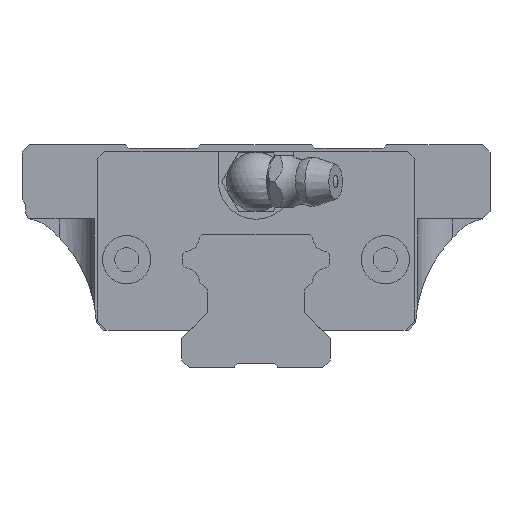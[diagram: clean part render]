
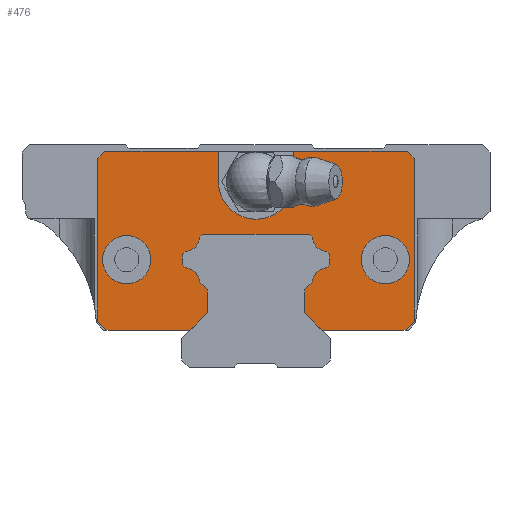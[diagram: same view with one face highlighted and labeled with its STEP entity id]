
A CAD part, front view. The second image highlights one B-rep face of the part: STEP entity #476.
In plain terms, the highlighted planar face has unit normal (0, -1, 0).
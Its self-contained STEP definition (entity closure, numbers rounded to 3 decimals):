
#198=FACE_BOUND('',#1001,.T.);
#199=FACE_BOUND('',#1002,.T.);
#301=CIRCLE('',#3698,2.2);
#303=CIRCLE('',#3704,2.2);
#305=CIRCLE('',#3710,2.2);
#307=CIRCLE('',#3716,2.2);
#321=CIRCLE('',#3772,3.25);
#322=CIRCLE('',#3773,3.25);
#323=CIRCLE('',#3774,5.05);
#476=ADVANCED_FACE('',(#198,#199,#805),#640,.F.);
#640=PLANE('',#3775);
#805=FACE_OUTER_BOUND('',#1003,.T.);
#1001=EDGE_LOOP('',(#1664));
#1002=EDGE_LOOP('',(#1665));
#1003=EDGE_LOOP('',(#1666,#1667,#1668,#1669,#1670,#1671,#1672,#1673,#1674,
#1675,#1676,#1677,#1678,#1679,#1680,#1681,#1682,#1683,#1684,#1685,#1686,
#1687,#1688,#1689,#1690,#1691,#1692,#1693,#1694,#1695,#1696,#1697));
#1664=ORIENTED_EDGE('',*,*,#2733,.F.);
#1665=ORIENTED_EDGE('',*,*,#2734,.F.);
#1666=ORIENTED_EDGE('',*,*,#2735,.F.);
#1667=ORIENTED_EDGE('',*,*,#2736,.T.);
#1668=ORIENTED_EDGE('',*,*,#2722,.T.);
#1669=ORIENTED_EDGE('',*,*,#2717,.F.);
#1670=ORIENTED_EDGE('',*,*,#2732,.T.);
#1671=ORIENTED_EDGE('',*,*,#2730,.T.);
#1672=ORIENTED_EDGE('',*,*,#2674,.T.);
#1673=ORIENTED_EDGE('',*,*,#2668,.T.);
#1674=ORIENTED_EDGE('',*,*,#2665,.F.);
#1675=ORIENTED_EDGE('',*,*,#2662,.F.);
#1676=ORIENTED_EDGE('',*,*,#2659,.T.);
#1677=ORIENTED_EDGE('',*,*,#2656,.F.);
#1678=ORIENTED_EDGE('',*,*,#2653,.F.);
#1679=ORIENTED_EDGE('',*,*,#2650,.T.);
#1680=ORIENTED_EDGE('',*,*,#2647,.T.);
#1681=ORIENTED_EDGE('',*,*,#2644,.T.);
#1682=ORIENTED_EDGE('',*,*,#2641,.T.);
#1683=ORIENTED_EDGE('',*,*,#2638,.F.);
#1684=ORIENTED_EDGE('',*,*,#2635,.T.);
#1685=ORIENTED_EDGE('',*,*,#2632,.F.);
#1686=ORIENTED_EDGE('',*,*,#2629,.T.);
#1687=ORIENTED_EDGE('',*,*,#2626,.T.);
#1688=ORIENTED_EDGE('',*,*,#2623,.T.);
#1689=ORIENTED_EDGE('',*,*,#2620,.T.);
#1690=ORIENTED_EDGE('',*,*,#2617,.T.);
#1691=ORIENTED_EDGE('',*,*,#2614,.F.);
#1692=ORIENTED_EDGE('',*,*,#2610,.T.);
#1693=ORIENTED_EDGE('',*,*,#2729,.T.);
#1694=ORIENTED_EDGE('',*,*,#2727,.F.);
#1695=ORIENTED_EDGE('',*,*,#2725,.F.);
#1696=ORIENTED_EDGE('',*,*,#2720,.T.);
#1697=ORIENTED_EDGE('',*,*,#2737,.F.);
#2232=VERTEX_POINT('',#5447);
#2233=VERTEX_POINT('',#5449);
#2236=VERTEX_POINT('',#5457);
#2238=VERTEX_POINT('',#5463);
#2240=VERTEX_POINT('',#5469);
#2242=VERTEX_POINT('',#5475);
#2244=VERTEX_POINT('',#5481);
#2246=VERTEX_POINT('',#5487);
#2248=VERTEX_POINT('',#5493);
#2250=VERTEX_POINT('',#5499);
#2252=VERTEX_POINT('',#5505);
#2254=VERTEX_POINT('',#5511);
#2256=VERTEX_POINT('',#5517);
#2258=VERTEX_POINT('',#5523);
#2260=VERTEX_POINT('',#5529);
#2262=VERTEX_POINT('',#5535);
#2264=VERTEX_POINT('',#5541);
#2266=VERTEX_POINT('',#5547);
#2268=VERTEX_POINT('',#5553);
#2270=VERTEX_POINT('',#5559);
#2272=VERTEX_POINT('',#5565);
#2275=VERTEX_POINT('',#5575);
#2294=VERTEX_POINT('',#5685);
#2295=VERTEX_POINT('',#5687);
#2296=VERTEX_POINT('',#5691);
#2298=VERTEX_POINT('',#5694);
#2299=VERTEX_POINT('',#5697);
#2301=VERTEX_POINT('',#5703);
#2302=VERTEX_POINT('',#5707);
#2303=VERTEX_POINT('',#5713);
#2304=VERTEX_POINT('',#5719);
#2305=VERTEX_POINT('',#5721);
#2306=VERTEX_POINT('',#5723);
#2307=VERTEX_POINT('',#5724);
#2610=EDGE_CURVE('',#2233,#2232,#3041,.T.);
#2614=EDGE_CURVE('',#2233,#2236,#3045,.T.);
#2617=EDGE_CURVE('',#2238,#2236,#3048,.T.);
#2620=EDGE_CURVE('',#2240,#2238,#3051,.T.);
#2623=EDGE_CURVE('',#2242,#2240,#301,.T.);
#2626=EDGE_CURVE('',#2244,#2242,#3055,.T.);
#2629=EDGE_CURVE('',#2246,#2244,#3058,.T.);
#2632=EDGE_CURVE('',#2246,#2248,#3061,.T.);
#2635=EDGE_CURVE('',#2250,#2248,#303,.T.);
#2638=EDGE_CURVE('',#2250,#2252,#3065,.T.);
#2641=EDGE_CURVE('',#2254,#2252,#3068,.T.);
#2644=EDGE_CURVE('',#2256,#2254,#3071,.T.);
#2647=EDGE_CURVE('',#2258,#2256,#305,.T.);
#2650=EDGE_CURVE('',#2260,#2258,#3075,.T.);
#2653=EDGE_CURVE('',#2260,#2262,#3078,.T.);
#2656=EDGE_CURVE('',#2262,#2264,#3081,.T.);
#2659=EDGE_CURVE('',#2266,#2264,#307,.T.);
#2662=EDGE_CURVE('',#2266,#2268,#3085,.T.);
#2665=EDGE_CURVE('',#2268,#2270,#3088,.T.);
#2668=EDGE_CURVE('',#2272,#2270,#3091,.T.);
#2674=EDGE_CURVE('',#2275,#2272,#3097,.T.);
#2717=EDGE_CURVE('',#2294,#2295,#3126,.T.);
#2720=EDGE_CURVE('',#2298,#2296,#3129,.T.);
#2722=EDGE_CURVE('',#2299,#2295,#3131,.T.);
#2725=EDGE_CURVE('',#2298,#2301,#3134,.T.);
#2727=EDGE_CURVE('',#2301,#2302,#3136,.T.);
#2729=EDGE_CURVE('',#2232,#2302,#3138,.T.);
#2730=EDGE_CURVE('',#2303,#2275,#3139,.T.);
#2732=EDGE_CURVE('',#2294,#2303,#3141,.T.);
#2733=EDGE_CURVE('',#2304,#2304,#321,.T.);
#2734=EDGE_CURVE('',#2305,#2305,#322,.T.);
#2735=EDGE_CURVE('',#2306,#2307,#323,.T.);
#2736=EDGE_CURVE('',#2306,#2299,#3142,.T.);
#2737=EDGE_CURVE('',#2307,#2296,#3143,.T.);
#3041=LINE('',#5448,#3386);
#3045=LINE('',#5456,#3390);
#3048=LINE('',#5462,#3393);
#3051=LINE('',#5468,#3396);
#3055=LINE('',#5480,#3400);
#3058=LINE('',#5486,#3403);
#3061=LINE('',#5492,#3406);
#3065=LINE('',#5504,#3410);
#3068=LINE('',#5510,#3413);
#3071=LINE('',#5516,#3416);
#3075=LINE('',#5528,#3420);
#3078=LINE('',#5534,#3423);
#3081=LINE('',#5540,#3426);
#3085=LINE('',#5552,#3430);
#3088=LINE('',#5558,#3433);
#3091=LINE('',#5564,#3436);
#3097=LINE('',#5574,#3442);
#3126=LINE('',#5686,#3471);
#3129=LINE('',#5693,#3474);
#3131=LINE('',#5696,#3476);
#3134=LINE('',#5702,#3479);
#3136=LINE('',#5706,#3481);
#3138=LINE('',#5710,#3483);
#3139=LINE('',#5712,#3484);
#3141=LINE('',#5716,#3486);
#3142=LINE('',#5725,#3487);
#3143=LINE('',#5726,#3488);
#3386=VECTOR('',#4218,1.);
#3390=VECTOR('',#4224,1.);
#3393=VECTOR('',#4229,1.);
#3396=VECTOR('',#4234,1.);
#3400=VECTOR('',#4246,1.);
#3403=VECTOR('',#4251,1.);
#3406=VECTOR('',#4256,1.);
#3410=VECTOR('',#4268,1.);
#3413=VECTOR('',#4273,1.);
#3416=VECTOR('',#4278,1.);
#3420=VECTOR('',#4290,1.);
#3423=VECTOR('',#4295,1.);
#3426=VECTOR('',#4300,1.);
#3430=VECTOR('',#4312,1.);
#3433=VECTOR('',#4317,1.);
#3436=VECTOR('',#4322,1.);
#3442=VECTOR('',#4330,1.);
#3471=VECTOR('',#4445,1.);
#3474=VECTOR('',#4450,1.);
#3476=VECTOR('',#4452,1.);
#3479=VECTOR('',#4457,1.);
#3481=VECTOR('',#4461,1.);
#3483=VECTOR('',#4465,1.);
#3484=VECTOR('',#4468,1.);
#3486=VECTOR('',#4472,1.);
#3487=VECTOR('',#4481,1.);
#3488=VECTOR('',#4482,1.);
#3698=AXIS2_PLACEMENT_3D('',#5474,#4239,#4240);
#3704=AXIS2_PLACEMENT_3D('',#5498,#4261,#4262);
#3710=AXIS2_PLACEMENT_3D('',#5522,#4283,#4284);
#3716=AXIS2_PLACEMENT_3D('',#5546,#4305,#4306);
#3772=AXIS2_PLACEMENT_3D('',#5718,#4475,#4476);
#3773=AXIS2_PLACEMENT_3D('',#5720,#4477,#4478);
#3774=AXIS2_PLACEMENT_3D('',#5722,#4479,#4480);
#3775=AXIS2_PLACEMENT_3D('',#5727,#4483,#4484);
#4218=DIRECTION('',(1.,0.,0.));
#4224=DIRECTION('',(-0.707,0.,0.707));
#4229=DIRECTION('',(0.,0.,-1.));
#4234=DIRECTION('',(-0.707,0.,-0.707));
#4239=DIRECTION('',(0.,-1.,0.));
#4240=DIRECTION('',(1.,0.,0.));
#4246=DIRECTION('',(-0.707,0.,-0.707));
#4251=DIRECTION('',(0.,0.,-1.));
#4256=DIRECTION('',(-0.707,0.,0.707));
#4261=DIRECTION('',(0.,-1.,0.));
#4262=DIRECTION('',(1.,0.,0.));
#4268=DIRECTION('',(-0.707,0.,0.707));
#4273=DIRECTION('',(1.,0.,0.));
#4278=DIRECTION('',(0.707,0.,0.707));
#4283=DIRECTION('',(0.,-1.,0.));
#4284=DIRECTION('',(1.,0.,0.));
#4290=DIRECTION('',(0.707,0.,0.707));
#4295=DIRECTION('',(0.,0.,-1.));
#4300=DIRECTION('',(0.707,0.,-0.707));
#4305=DIRECTION('',(0.,-1.,0.));
#4306=DIRECTION('',(1.,0.,0.));
#4312=DIRECTION('',(0.707,0.,-0.707));
#4317=DIRECTION('',(0.,0.,-1.));
#4322=DIRECTION('',(0.707,0.,0.707));
#4330=DIRECTION('',(1.,0.,0.));
#4445=DIRECTION('',(0.707,0.,0.707));
#4450=DIRECTION('',(-1.,0.,0.));
#4452=DIRECTION('',(-1.,0.,0.));
#4457=DIRECTION('',(0.707,0.,-0.707));
#4461=DIRECTION('',(0.,0.,-1.));
#4465=DIRECTION('',(0.707,0.,0.707));
#4468=DIRECTION('',(0.707,0.,-0.707));
#4472=DIRECTION('',(0.,0.,-1.));
#4475=DIRECTION('',(0.,-1.,0.));
#4476=DIRECTION('',(0.,0.,-1.));
#4477=DIRECTION('',(0.,-1.,0.));
#4478=DIRECTION('',(0.,0.,-1.));
#4479=DIRECTION('',(0.,-1.,0.));
#4480=DIRECTION('',(1.,0.,0.));
#4481=DIRECTION('',(0.,0.,1.));
#4482=DIRECTION('',(0.,0.,1.));
#4483=DIRECTION('',(0.,1.,0.));
#4484=DIRECTION('',(0.,0.,-1.));
#5447=CARTESIAN_POINT('',(20.059,-36.95,5.));
#5448=CARTESIAN_POINT('',(8.901,-36.95,5.));
#5449=CARTESIAN_POINT('',(8.901,-36.95,5.));
#5456=CARTESIAN_POINT('',(8.901,-36.95,5.));
#5457=CARTESIAN_POINT('',(6.53,-36.95,7.371));
#5462=CARTESIAN_POINT('',(6.53,-36.95,10.429));
#5463=CARTESIAN_POINT('',(6.53,-36.95,10.429));
#5468=CARTESIAN_POINT('',(7.564,-36.95,11.463));
#5469=CARTESIAN_POINT('',(7.564,-36.95,11.463));
#5474=CARTESIAN_POINT('',(9.753,-36.95,11.247));
#5475=CARTESIAN_POINT('',(9.537,-36.95,13.436));
#5480=CARTESIAN_POINT('',(9.93,-36.95,13.829));
#5481=CARTESIAN_POINT('',(9.93,-36.95,13.829));
#5486=CARTESIAN_POINT('',(9.93,-36.95,15.171));
#5487=CARTESIAN_POINT('',(9.93,-36.95,15.171));
#5492=CARTESIAN_POINT('',(9.93,-36.95,15.171));
#5493=CARTESIAN_POINT('',(9.537,-36.95,15.564));
#5498=CARTESIAN_POINT('',(9.753,-36.95,17.753));
#5499=CARTESIAN_POINT('',(7.564,-36.95,17.537));
#5504=CARTESIAN_POINT('',(7.564,-36.95,17.537));
#5505=CARTESIAN_POINT('',(7.171,-36.95,17.93));
#5510=CARTESIAN_POINT('',(-7.171,-36.95,17.93));
#5511=CARTESIAN_POINT('',(-7.171,-36.95,17.93));
#5516=CARTESIAN_POINT('',(-7.564,-36.95,17.537));
#5517=CARTESIAN_POINT('',(-7.564,-36.95,17.537));
#5522=CARTESIAN_POINT('',(-9.753,-36.95,17.753));
#5523=CARTESIAN_POINT('',(-9.537,-36.95,15.564));
#5528=CARTESIAN_POINT('',(-9.93,-36.95,15.171));
#5529=CARTESIAN_POINT('',(-9.93,-36.95,15.171));
#5534=CARTESIAN_POINT('',(-9.93,-36.95,15.171));
#5535=CARTESIAN_POINT('',(-9.93,-36.95,13.829));
#5540=CARTESIAN_POINT('',(-9.93,-36.95,13.829));
#5541=CARTESIAN_POINT('',(-9.537,-36.95,13.436));
#5546=CARTESIAN_POINT('',(-9.753,-36.95,11.247));
#5547=CARTESIAN_POINT('',(-7.564,-36.95,11.463));
#5552=CARTESIAN_POINT('',(-7.564,-36.95,11.463));
#5553=CARTESIAN_POINT('',(-6.53,-36.95,10.429));
#5558=CARTESIAN_POINT('',(-6.53,-36.95,10.429));
#5559=CARTESIAN_POINT('',(-6.53,-36.95,7.371));
#5564=CARTESIAN_POINT('',(-8.901,-36.95,5.));
#5565=CARTESIAN_POINT('',(-8.901,-36.95,5.));
#5574=CARTESIAN_POINT('',(-20.059,-36.95,5.));
#5575=CARTESIAN_POINT('',(-20.059,-36.95,5.));
#5685=CARTESIAN_POINT('',(-21.3,-36.95,28.159));
#5686=CARTESIAN_POINT('',(-21.3,-36.95,28.159));
#5687=CARTESIAN_POINT('',(-20.359,-36.95,29.1));
#5691=CARTESIAN_POINT('',(5.05,-36.95,29.1));
#5693=CARTESIAN_POINT('',(20.359,-36.95,29.1));
#5694=CARTESIAN_POINT('',(20.359,-36.95,29.1));
#5696=CARTESIAN_POINT('',(20.359,-36.95,29.1));
#5697=CARTESIAN_POINT('',(-5.05,-36.95,29.1));
#5702=CARTESIAN_POINT('',(20.359,-36.95,29.1));
#5703=CARTESIAN_POINT('',(21.3,-36.95,28.159));
#5706=CARTESIAN_POINT('',(21.3,-36.95,28.159));
#5707=CARTESIAN_POINT('',(21.3,-36.95,6.241));
#5710=CARTESIAN_POINT('',(20.059,-36.95,5.));
#5712=CARTESIAN_POINT('',(-21.3,-36.95,6.241));
#5713=CARTESIAN_POINT('',(-21.3,-36.95,6.241));
#5716=CARTESIAN_POINT('',(-21.3,-36.95,28.159));
#5718=CARTESIAN_POINT('',(17.4,-36.95,14.5));
#5719=CARTESIAN_POINT('',(17.4,-36.95,11.25));
#5720=CARTESIAN_POINT('',(-17.4,-36.95,14.5));
#5721=CARTESIAN_POINT('',(-17.4,-36.95,11.25));
#5722=CARTESIAN_POINT('',(0.,-36.95,25.));
#5723=CARTESIAN_POINT('',(-5.05,-36.95,25.));
#5724=CARTESIAN_POINT('',(5.05,-36.95,25.));
#5725=CARTESIAN_POINT('',(-5.05,-36.95,25.));
#5726=CARTESIAN_POINT('',(5.05,-36.95,25.));
#5727=CARTESIAN_POINT('',(9.753,-36.95,11.247));
